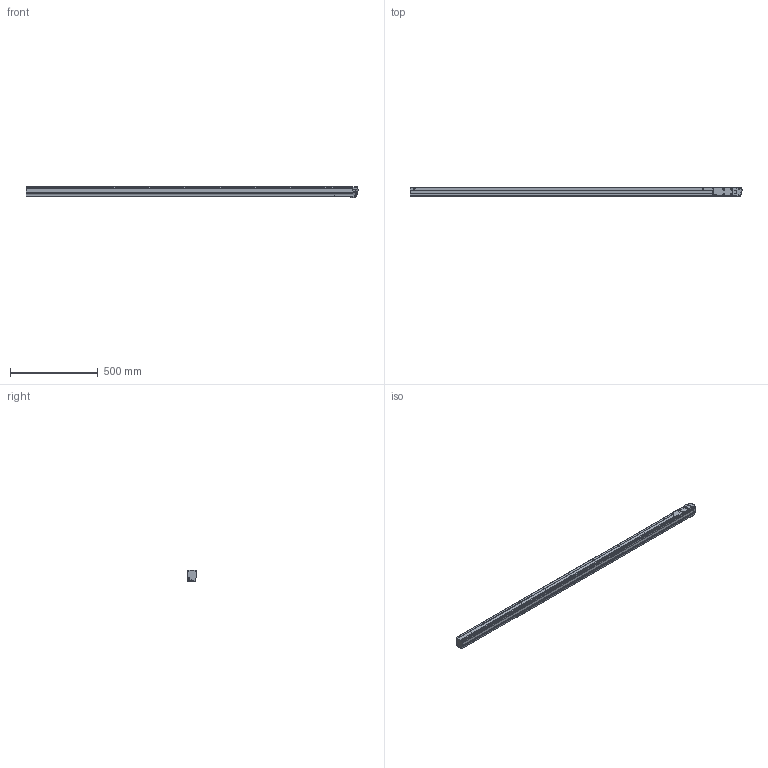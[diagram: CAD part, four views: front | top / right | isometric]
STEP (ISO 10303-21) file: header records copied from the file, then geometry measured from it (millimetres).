
FILE_DESCRIPTION(('Creo Elements/Direct Modeling STEP Export'),'2;1');
FILE_NAME('MOD-16E-T-Li.stp','2022-01-11T11:47:59',(''),(''),'Creo Elements/Direct Modeling STEP processor for AP214 (Solid Model)','Creo Elements/Direct Modeling 19.0G 27-Nov-2017 (C) Parametric Technology GmbH','');
FILE_SCHEMA(('AUTOMOTIVE_DESIGN { 1 0 10303 214 1 1 1 1 }'));
Length unit declared in the file: millimetre
Products named in the file (4): TAPA_DERECHA; Mod-16E-M-Li
Assembly tree (2 placements, depth 2):
  TAPA_DERECHA
    TAPA_DERECHA
  Mod-16E-M-Li
    Mod-16E-M-Li
Bounding box: 1897.31 x 50 x 64.07 mm (x, y, z)
Volume: 4775220.6 mm3; surface area: 575620.6 mm2
Topology: 2 solids, 11 shells, 1327 faces, 3614 edges, 2328 vertices
Faces by surface type: plane 515, cylinder 467, bspline 180, cone 110, torus 45, sphere 10
Entity records: 63092 total; most frequent: CARTESIAN_POINT 27125, ORIENTED_EDGE 7224, DIRECTION 5931, EDGE_CURVE 3605, VERTEX_POINT 2328, AXIS2_PLACEMENT_3D 2117, VECTOR 1697, LINE 1697
